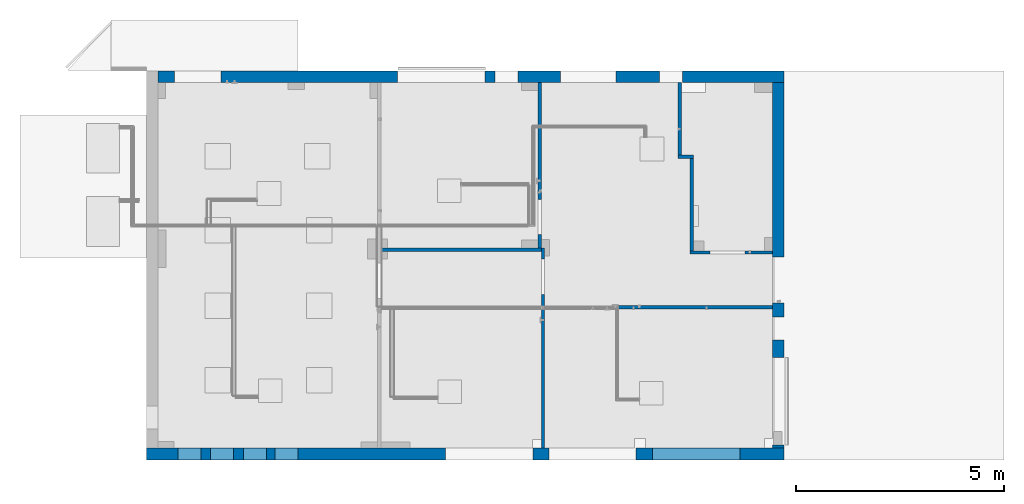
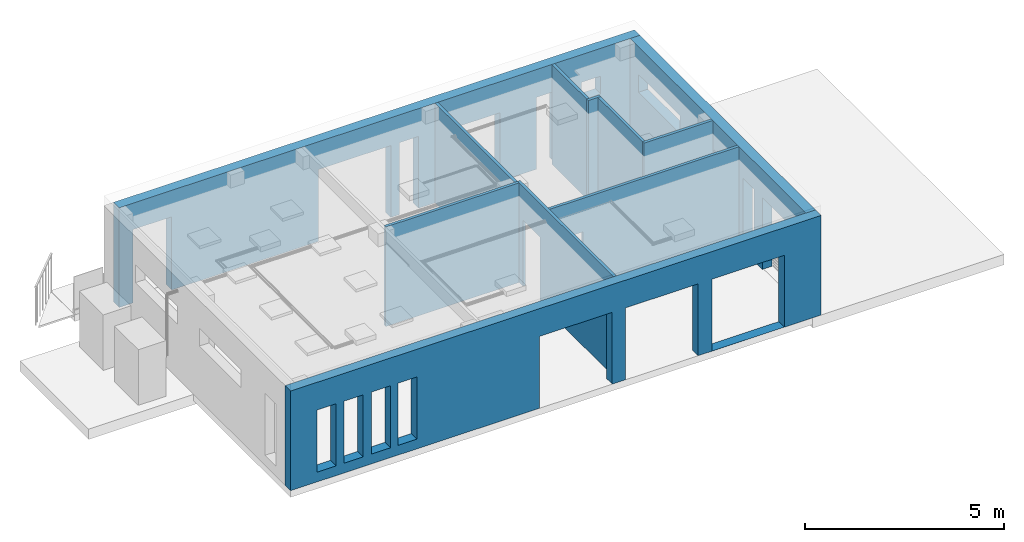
# One storey, part 2 of 22: 11 walls, 21 openings.
"""IFC2X3 building model written with IfcOpenShell, lengths in millimetres."""

import ifcopenshell
import ifcopenshell.guid

model = None  # the IFC model being written
_history = None  # IfcOwnerHistory: only IFC2X3 demands one
_inside = {}  # id of a spatial element -> (the spatial element, [elements in it])
_under = {}  # id of a project, library or spatial element -> (it, [spatial elements below it])
_declared = {}  # id of a project -> (the project, [libraries it declares])
_typed = {}  # id of a type object -> (the type object, [elements of that type])
_made_of = {}  # id of a material, layer set ... -> (it, [elements and type objects made of it])


def new_model(schema):
    """Start an empty IFC model of exactly this schema.

    Asked for "IFC4X3", IfcOpenShell would pick the latest addendum, in which some entities
    have other attributes; the version numbers below select the first issue.
    IFC2X3 requires an IfcOwnerHistory on every rooted entity: one is made here for all.
    """
    global model, _history
    if schema == "IFC4X3":
        model = ifcopenshell.file(schema_version=(4, 3, 0, 0))
    else:
        model = ifcopenshell.file(schema=schema)
    _inside.clear()
    _under.clear()
    _declared.clear()
    _typed.clear()
    _made_of.clear()
    _history = None
    if model.schema == "IFC2X3":
        org = make("IfcOrganization", Name="unknown")
        user = make(
            "IfcPersonAndOrganization",
            ThePerson=make("IfcPerson", FamilyName="unknown"),
            TheOrganization=org,
        )
        app = make(
            "IfcApplication",
            ApplicationDeveloper=org,
            Version="unknown",
            ApplicationFullName="unknown",
            ApplicationIdentifier="unknown",
        )
        _history = make(
            "IfcOwnerHistory",
            OwningUser=user,
            OwningApplication=app,
            ChangeAction="ADDED",
            CreationDate=0,
        )
    return model


def make(cls, **values):
    """One entity of the class cls with the attributes given. An attribute that is None is left unset."""
    return model.create_entity(
        cls, **{name: value for name, value in values.items() if value is not None}
    )


def entity(cls, *values):
    """Any entity or typed value of the class cls, its attributes in the order of the schema. None: left unset."""
    e = model.create_entity(cls)
    for i, value in enumerate(values):
        if value is not None:
            e[i] = value
    return e


def rooted(cls, **values):
    """An entity with a GlobalId (a new one), such as an element, a storey or a relation."""
    return make(cls, GlobalId=ifcopenshell.guid.new(), OwnerHistory=_history, **values)


def si_unit(unit_type, name, prefix=None):
    """IfcSIUnit, for example si_unit("LENGTHUNIT", "METRE", prefix="MILLI")."""
    return make("IfcSIUnit", UnitType=unit_type, Prefix=prefix, Name=name)


def converted_unit(unit_type, name, factor, base, dimensions=None, offset=None):
    """IfcConversionBasedUnit, such as the inch: factor (a typed value) times the base unit."""
    return make(
        "IfcConversionBasedUnit"
        if offset is None
        else "IfcConversionBasedUnitWithOffset",
        ConversionOffset=offset,
        Dimensions=None
        if dimensions is None
        else entity("IfcDimensionalExponents", *dimensions),
        UnitType=unit_type,
        Name=name,
        ConversionFactor=make(
            "IfcMeasureWithUnit", ValueComponent=factor, UnitComponent=base
        ),
    )


def derived_unit(unit_type, elements):
    """IfcDerivedUnit: a product of units, each with its exponent."""
    return make(
        "IfcDerivedUnit",
        Elements=[
            make("IfcDerivedUnitElement", Unit=unit, Exponent=power)
            for unit, power in elements
        ],
        UnitType=unit_type,
    )


def assignment(units):
    """IfcUnitAssignment: the units of a project."""
    return None if units is None else make("IfcUnitAssignment", Units=units)


def point(xyz):
    """IfcCartesianPoint."""
    return None if xyz is None else make("IfcCartesianPoint", Coordinates=xyz)


def direction(xyz):
    """IfcDirection."""
    return None if xyz is None else make("IfcDirection", DirectionRatios=xyz)


def frame(location, z_axis=None, x_axis=None):
    """IfcAxis2Placement3D, a coordinate frame: its origin and axes. An axis left out is left unset."""
    return make(
        "IfcAxis2Placement3D",
        Location=point(location),
        Axis=direction(z_axis),
        RefDirection=direction(x_axis),
    )


def frame_2d(location, x_axis=None):
    """IfcAxis2Placement2D, a coordinate frame in the plane: its origin and x axis."""
    return make(
        "IfcAxis2Placement2D", Location=point(location), RefDirection=direction(x_axis)
    )


def origin():
    """The frame at (0, 0, 0) with its axes left unset."""
    return frame((0.0, 0.0, 0.0))


def origin_2d_with_axis():
    """The frame at (0, 0) in the plane with the x axis (1, 0) written out."""
    return frame_2d((0.0, 0.0), x_axis=(1.0, 0.0))


def place(relative_to, where):
    """IfcLocalPlacement: puts the frame where relative to a parent placement (None: the world)."""
    return make(
        "IfcLocalPlacement", PlacementRelTo=relative_to, RelativePlacement=where
    )


def context(
    kind, dimensions, precision=None, world=None, true_north=None, identifier=None
):
    """IfcGeometricRepresentationContext, for example the 3D "Model" context."""
    return make(
        "IfcGeometricRepresentationContext",
        ContextIdentifier=identifier,
        ContextType=kind,
        CoordinateSpaceDimension=dimensions,
        Precision=precision,
        WorldCoordinateSystem=world,
        TrueNorth=true_north,
    )


def subcontext(parent, identifier, kind, view, scale=None):
    """IfcGeometricRepresentationSubContext, for example "Body" below "Model"."""
    return make(
        "IfcGeometricRepresentationSubContext",
        ContextIdentifier=identifier,
        ContextType=kind,
        ParentContext=parent,
        TargetScale=scale,
        TargetView=view,
    )


def project(units=None, contexts=None):
    """IfcProject with its units and contexts."""
    return rooted(
        "IfcProject",
        Name="project",
        RepresentationContexts=contexts,
        UnitsInContext=assignment(units),
    )


def spatial(cls, under=None, at=None, **own):
    """A site, building, storey or space (cls), placed at a placement, below another one or the project."""
    s = rooted(cls, ObjectPlacement=at, **own)
    if under is not None:
        _under.setdefault(under.id(), (under, []))[1].append(s)
    return s


def profile(cls, at=None, kind="AREA", **sizes):
    """A parametric profile (cls). Its sizes go by their IFC names, for example OverallWidth=200.0."""
    return make(cls, ProfileType=kind, Position=at, **sizes)


def rectangle(**sizes):
    """IfcRectangleProfileDef."""
    return profile("IfcRectangleProfileDef", **sizes)


def extrude(swept, where, along, depth):
    """IfcExtrudedAreaSolid: the profile swept, set in the frame where, extruded along a direction by depth."""
    return make(
        "IfcExtrudedAreaSolid",
        SweptArea=swept,
        Position=where,
        ExtrudedDirection=direction(along),
        Depth=depth,
    )


def shape(context_of_items, identifier, shape_type, items):
    """IfcShapeRepresentation: the items that make up one representation, for example the "Body"."""
    return make(
        "IfcShapeRepresentation",
        ContextOfItems=context_of_items,
        RepresentationIdentifier=identifier,
        RepresentationType=shape_type,
        Items=items,
    )


def material(Name=None, Category=None):
    """IfcMaterial."""
    return make("IfcMaterial", Name=Name, Category=Category)


def layer(
    of_material, thickness, ventilated=None, Name=None, Category=None, Priority=None
):
    """IfcMaterialLayer: one layer of a wall or slab, of a material (None: an air gap)."""
    return make(
        "IfcMaterialLayer",
        Material=of_material,
        LayerThickness=thickness,
        IsVentilated=ventilated,
        Name=Name,
        Category=Category,
        Priority=Priority,
    )


def layer_set(layers, Name=None):
    """IfcMaterialLayerSet."""
    return make("IfcMaterialLayerSet", MaterialLayers=layers, LayerSetName=Name)


def layer_usage(for_layer_set, set_direction, sense, offset, extent=None):
    """IfcMaterialLayerSetUsage: how a layer set lies in its element."""
    return make(
        "IfcMaterialLayerSetUsage",
        ForLayerSet=for_layer_set,
        LayerSetDirection=set_direction,
        DirectionSense=sense,
        OffsetFromReferenceLine=offset,
        ReferenceExtent=extent,
    )


def made_of(thing, what):
    """Note that an element or type object is made of a material, layer set ...; save() writes the relation."""
    if what is not None:
        _made_of.setdefault(what.id(), (what, []))[1].append(thing)
    return thing


def type_object(cls, material=None, **own):
    """A type object (cls), such as IfcWallType, which elements share."""
    return made_of(rooted(cls, **own), material)


def element(
    cls,
    number,
    at=None,
    inside=None,
    cuts=None,
    type_object=None,
    material=None,
    context=None,
    identifier="Body",
    shape_type=None,
    held_by="IfcProductDefinitionShape",
    body=None,
    shapes=None,
    **own,
):
    """One element of the class cls, such as IfcWall. Its Tag is "e" and its number.

    at: its placement. inside: the storey or other place that contains it. cuts: it is an
    opening in that element (IfcRelVoidsElement). A single representation is given by context,
    identifier, shape_type and body (its items); several are given by shapes. held_by: the class
    of the entity that holds the representations. save() writes the other relations.
    """
    e = rooted(cls, Tag="e%d" % number, ObjectPlacement=at, **own)
    if body is not None:
        shapes = [shape(context, identifier, shape_type, body)]
    if shapes is not None:
        e.Representation = make(held_by, Representations=shapes)
    if inside is not None:
        _inside.setdefault(inside.id(), (inside, []))[1].append(e)
    if cuts is not None:
        rooted(
            "IfcRelVoidsElement", RelatingBuildingElement=cuts, RelatedOpeningElement=e
        )
    if type_object is not None:
        _typed.setdefault(type_object.id(), (type_object, []))[1].append(e)
    return made_of(e, material)


def aggregate(whole, parts):
    """IfcRelAggregates: a whole, such as a stair, and the parts it consists of."""
    return rooted("IfcRelAggregates", RelatingObject=whole, RelatedObjects=parts)


def save(model, path):
    """Write the relations noted so far, then the file.

    IfcRelAggregates (storeys below a building ...), IfcRelContainedInSpatialStructure (elements
    in a storey), IfcRelDefinesByType, IfcRelAssociatesMaterial and IfcRelDeclares: one each for
    every whole, place, type object, material and project.
    """
    for whole, parts in _under.values():
        aggregate(whole, parts)
    for where, things in _inside.values():
        rooted(
            "IfcRelContainedInSpatialStructure",
            RelatedElements=things,
            RelatingStructure=where,
        )
    for kind, things in _typed.values():
        rooted("IfcRelDefinesByType", RelatedObjects=things, RelatingType=kind)
    for what, things in _made_of.values():
        rooted("IfcRelAssociatesMaterial", RelatedObjects=things, RelatingMaterial=what)
    for by, libraries in _declared.values():
        rooted("IfcRelDeclares", RelatingContext=by, RelatedDefinitions=libraries)
    model.write(path)


model = new_model("IFC2X3")

# Units and contexts
model_context = context("Model", 3, precision=0.01, world=origin(), true_north=direction((6.123031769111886e-17, 1.0)))
body_context = subcontext(model_context, "Body", "Model", "MODEL_VIEW")
ifc_project = project(units=[si_unit("LENGTHUNIT", "METRE", prefix="MILLI"), si_unit("AREAUNIT", "SQUARE_METRE"), si_unit("VOLUMEUNIT", "CUBIC_METRE"), converted_unit("PLANEANGLEUNIT", "DEGREE", entity("IfcRatioMeasure", 0.017453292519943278), si_unit("PLANEANGLEUNIT", "RADIAN"), dimensions=[0, 0, 0, 0, 0, 0, 0]), si_unit("MASSUNIT", "GRAM", prefix="KILO"), derived_unit("MASSDENSITYUNIT", [(si_unit("MASSUNIT", "GRAM", prefix="KILO"), 1), (si_unit("LENGTHUNIT", "METRE"), -3)]), derived_unit("MOMENTOFINERTIAUNIT", [(si_unit("LENGTHUNIT", "METRE"), 4)]), si_unit("TIMEUNIT", "SECOND"), si_unit("FREQUENCYUNIT", "HERTZ"), si_unit("THERMODYNAMICTEMPERATUREUNIT", "DEGREE_CELSIUS"), derived_unit("THERMALTRANSMITTANCEUNIT", [(si_unit("MASSUNIT", "GRAM", prefix="KILO"), 1), (si_unit("THERMODYNAMICTEMPERATUREUNIT", "KELVIN"), -1), (si_unit("TIMEUNIT", "SECOND"), -3)]), derived_unit("VOLUMETRICFLOWRATEUNIT", [(si_unit("LENGTHUNIT", "METRE"), 3), (si_unit("TIMEUNIT", "SECOND"), -1)]), derived_unit("MASSFLOWRATEUNIT", [(si_unit("MASSUNIT", "GRAM", prefix="KILO"), 1), (si_unit("TIMEUNIT", "SECOND"), -1)]), derived_unit("ROTATIONALFREQUENCYUNIT", [(si_unit("TIMEUNIT", "SECOND"), -1)]), si_unit("ELECTRICCURRENTUNIT", "AMPERE"), si_unit("ELECTRICVOLTAGEUNIT", "VOLT"), si_unit("POWERUNIT", "WATT"), si_unit("FORCEUNIT", "NEWTON", prefix="KILO"), si_unit("ILLUMINANCEUNIT", "LUX"), si_unit("LUMINOUSFLUXUNIT", "LUMEN"), si_unit("LUMINOUSINTENSITYUNIT", "CANDELA"), derived_unit("USERDEFINED", [(si_unit("MASSUNIT", "GRAM", prefix="KILO"), -1), (si_unit("LENGTHUNIT", "METRE"), -2), (si_unit("TIMEUNIT", "SECOND"), 3), (si_unit("LUMINOUSFLUXUNIT", "LUMEN"), 1)]), derived_unit("SOUNDPOWERUNIT", [(si_unit("MASSUNIT", "GRAM", prefix="KILO"), 1), (si_unit("LENGTHUNIT", "METRE"), 2), (si_unit("TIMEUNIT", "SECOND"), -3)]), derived_unit("SOUNDPRESSUREUNIT", [(si_unit("MASSUNIT", "GRAM", prefix="KILO"), 1), (si_unit("LENGTHUNIT", "METRE"), -1), (si_unit("TIMEUNIT", "SECOND"), -2)]), derived_unit("LINEARVELOCITYUNIT", [(si_unit("LENGTHUNIT", "METRE"), 1), (si_unit("TIMEUNIT", "SECOND"), -1)]), si_unit("PRESSUREUNIT", "PASCAL"), derived_unit("USERDEFINED", [(si_unit("LENGTHUNIT", "METRE"), -2), (si_unit("MASSUNIT", "GRAM", prefix="KILO"), 1), (si_unit("TIMEUNIT", "SECOND"), -2)]), derived_unit("LINEARFORCEUNIT", [(si_unit("MASSUNIT", "GRAM", prefix="KILO"), 1), (si_unit("LENGTHUNIT", "METRE"), 1), (si_unit("TIMEUNIT", "SECOND"), -2), (si_unit("LENGTHUNIT", "METRE"), -1)]), derived_unit("PLANARFORCEUNIT", [(si_unit("MASSUNIT", "GRAM", prefix="KILO"), 1), (si_unit("LENGTHUNIT", "METRE"), 1), (si_unit("TIMEUNIT", "SECOND"), -2), (si_unit("LENGTHUNIT", "METRE"), -2)])], contexts=[model_context])

# Site, building, storey
site_placement = place(None, origin())
site = spatial("IfcSite", under=ifc_project, at=site_placement, Name="Default", CompositionType="ELEMENT")
building_placement = place(site_placement, origin())
building = spatial("IfcBuilding", under=site, at=building_placement, CompositionType="ELEMENT")
storey_placement = place(building_placement, frame((0.0, 0.0, 3300.0)))
storey = spatial("IfcBuildingStorey", under=building, at=storey_placement, Name="Level 2", CompositionType="ELEMENT", Elevation=3299.99999999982)

# Wall, openings
ifc_material_1 = material(Name="Finishing Coating")
ifc_layer_1 = layer(ifc_material_1, 10.0)
ifc_layer_2 = layer(ifc_material_1, 10.0)
ifc_material_2 = material(Name="FIBRAN GEO BP Etics")
ifc_layer_3 = layer(ifc_material_2, 160.0)
ifc_material_3 = material(Name="Lightweight Perlite Concrete")
ifc_layer_4 = layer(ifc_material_3, 90.0)
ifc_layer_5 = layer(ifc_material_1, 10.0)
ifc_layer_set_1 = layer_set([ifc_layer_1, ifc_layer_2, ifc_layer_3, ifc_layer_4, ifc_layer_5], Name="Basic Wall:Basic Wall:Basic Wall:My exterior wall 280mm")
ifc_layer_usage_1 = layer_usage(ifc_layer_set_1, "AXIS2", "NEGATIVE", 140.0)
wall_type_1 = type_object("IfcWallType", Name="Basic Wall:Basic Wall:Basic Wall:My exterior wall 280mm", PredefinedType="STANDARD", material=ifc_layer_set_1)
wall_1_placement = place(storey_placement, frame((-9145.33652342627, 5151.16151326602, 0.0)))
wall_1 = element("IfcWallStandardCase", 1, at=wall_1_placement, inside=storey, type_object=wall_type_1, material=ifc_layer_usage_1, Name="Basic Wall:My exterior wall 280mm", ObjectType="Basic Wall:My exterior wall 280mm", context=body_context, shape_type="SweptSolid", body=[
    extrude(rectangle(XDim=15078.705903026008, YDim=280.0000000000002, at=frame_2d((7539.352951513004, -5.400124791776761e-13), x_axis=(1.0, 0.0))), origin(), (0.0, 0.0, 1.0), 3050.000000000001),
])
opening_1_placement = place(wall_1_placement, origin())
element("IfcOpeningElement", 2, at=opening_1_placement, cuts=wall_1, Name="Basic Wall:My exterior wall 280mm", ObjectType="Opening", context=body_context, shape_type="SweptSolid", body=[
    extrude(rectangle(XDim=2100.000000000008, YDim=1340.00356586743, at=frame_2d((2.2737367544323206e-13, 0.0), x_axis=(1.0, 0.0))), frame((10360.928881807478, -140.0, 1050.0), z_axis=(0.0, 1.0, 0.0), x_axis=(0.0, 0.0, -1.0)), (0.0, 0.0, 1.0), 279.99999999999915),
])
opening_2_placement = place(wall_1_placement, origin())
element("IfcOpeningElement", 3, at=opening_2_placement, cuts=wall_1, Name="Basic Wall:My exterior wall 280mm", ObjectType="Opening", context=body_context, shape_type="SweptSolid", body=[
    extrude(rectangle(XDim=2200.0000000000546, YDim=550.0000000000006, at=frame_2d((3.410605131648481e-13, 0.0), x_axis=(1.0, 0.0))), frame((8395.83558297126, -140.0, 1100.0), z_axis=(0.0, 1.0, 0.0), x_axis=(0.0, 0.0, -1.0)), (0.0, 0.0, 1.0), 279.99999999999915),
])
opening_3_placement = place(wall_1_placement, origin())
element("IfcOpeningElement", 4, at=opening_3_placement, cuts=wall_1, Name="Basic Wall:My exterior wall 280mm", ObjectType="Opening", context=body_context, shape_type="SweptSolid", body=[
    extrude(rectangle(XDim=2200.0000000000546, YDim=549.9999999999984, at=frame_2d((3.410605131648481e-13, 0.0), x_axis=(1.0, 0.0))), frame((12353.9932975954, -140.0, 1100.0), z_axis=(0.0, 1.0, 0.0), x_axis=(0.0, 0.0, -1.0)), (0.0, 0.0, 1.0), 279.99999999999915),
])
opening_4_placement = place(wall_1_placement, origin())
element("IfcOpeningElement", 5, at=opening_4_placement, cuts=wall_1, Name="Basic Wall:My exterior wall 280mm", ObjectType="Opening", context=body_context, shape_type="SweptSolid", body=[
    extrude(rectangle(XDim=2200.0000000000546, YDim=2099.999999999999, at=frame_2d((3.410605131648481e-13, 0.0), x_axis=(1.0, 0.0))), frame((6820.83558297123, -140.0, 1100.0), z_axis=(0.0, 1.0, 0.0), x_axis=(0.0, 0.0, -1.0)), (0.0, 0.0, 1.0), 279.99999999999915),
])
opening_5_placement = place(wall_1_placement, origin())
element("IfcOpeningElement", 6, at=opening_5_placement, cuts=wall_1, Name="Basic Wall:My exterior wall 280mm", ObjectType="Opening", context=body_context, shape_type="SweptSolid", body=[
    extrude(rectangle(XDim=2241.6000000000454, YDim=1121.5999999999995, at=frame_2d((2.2737367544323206e-13, -5.684341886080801e-13), x_axis=(1.0, 0.0))), frame((960.8000000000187, -140.0, 1120.7999999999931), z_axis=(0.0, 1.0, 0.0), x_axis=(0.0, 0.0, -1.0)), (0.0, 0.0, 1.0), 279.99999999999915),
])
opening_6_placement = place(wall_1_placement, origin())
element("IfcOpeningElement", 7, at=opening_6_placement, cuts=wall_1, Name="Basic Wall:My exterior wall 280mm", ObjectType="Opening", context=body_context, shape_type="SweptSolid", body=[
    extrude(rectangle(XDim=550.0000000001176, YDim=550.0000000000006, at=origin_2d_with_axis()), frame((13668.9932975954, -140.0, 1925.0), z_axis=(0.0, 1.0, 0.0), x_axis=(0.0, 0.0, -1.0)), (0.0, 0.0, 1.0), 279.99999999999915),
])

ifc_layer_usage_2 = layer_usage(ifc_layer_set_1, "AXIS2", "NEGATIVE", 140.0)
wall_2_placement = place(storey_placement, frame((5933.36937959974, -3935.83848673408, 0.0), z_axis=(0.0, 0.0, 1.0), x_axis=(-1.0, 0.0, 0.0)))
wall_2 = element("IfcWallStandardCase", 8, at=wall_2_placement, inside=storey, type_object=wall_type_1, material=ifc_layer_usage_2, Name="Basic Wall:My exterior wall 280mm", ObjectType="Basic Wall:My exterior wall 280mm", context=body_context, shape_type="SweptSolid", body=[
    extrude(rectangle(XDim=15358.70590302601, YDim=280.0000000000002, at=frame_2d((7679.352951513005, 0.0), x_axis=(1.0, 0.0))), origin(), (0.0, 0.0, 1.0), 3050.000000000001),
])
opening_7_placement = place(wall_2_placement, origin())
element("IfcOpeningElement", 9, at=opening_7_placement, cuts=wall_2, Name="Basic Wall:My exterior wall 280mm", ObjectType="Opening", context=body_context, shape_type="SweptSolid", body=[
    extrude(rectangle(XDim=2200.0000000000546, YDim=2100.0, at=frame_2d((3.410605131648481e-13, 0.0), x_axis=(1.0, 0.0))), frame((7097.75772857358, -140.0, 1100.0), z_axis=(0.0, 1.0, 0.0), x_axis=(0.0, 0.0, -1.0)), (0.0, 0.0, 1.0), 280.0000000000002),
])
opening_8_placement = place(wall_2_placement, origin())
element("IfcOpeningElement", 10, at=opening_8_placement, cuts=wall_2, Name="Basic Wall:My exterior wall 280mm", ObjectType="Opening", context=body_context, shape_type="SweptSolid", body=[
    extrude(rectangle(XDim=2200.0000000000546, YDim=2099.999999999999, at=frame_2d((3.410605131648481e-13, 0.0), x_axis=(1.0, 0.0))), frame((4615.757728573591, -140.0, 1100.0), z_axis=(0.0, 1.0, 0.0), x_axis=(0.0, 0.0, -1.0)), (0.0, 0.0, 1.0), 280.0000000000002),
])
opening_9_placement = place(wall_2_placement, origin())
element("IfcOpeningElement", 11, at=opening_9_placement, cuts=wall_2, Name="Basic Wall:My exterior wall 280mm", ObjectType="Opening", context=body_context, shape_type="SweptSolid", body=[
    extrude(rectangle(XDim=2200.0000000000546, YDim=2099.9999999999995, at=frame_2d((3.410605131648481e-13, 2.2737367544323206e-13), x_axis=(1.0, 0.0))), frame((2115.7577285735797, -140.0, 1102.4887035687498), z_axis=(0.0, 1.0, 0.0), x_axis=(0.0, 0.0, -1.0)), (0.0, 0.0, 1.0), 280.0000000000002),
])
opening_10_placement = place(wall_2_placement, origin())
element("IfcOpeningElement", 12, at=opening_10_placement, cuts=wall_2, Name="Basic Wall:My exterior wall 280mm", ObjectType="Opening", context=body_context, shape_type="SweptSolid", body=[
    extrude(rectangle(XDim=1900.0000000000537, YDim=550.0000000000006, at=frame_2d((2.8421709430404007e-13, 0.0), x_axis=(1.0, 0.0))), frame((14321.477999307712, -140.0, 1250.0), z_axis=(0.0, 1.0, 0.0), x_axis=(0.0, 0.0, -1.0)), (0.0, 0.0, 1.0), 280.0000000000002),
])
opening_11_placement = place(wall_2_placement, origin())
element("IfcOpeningElement", 13, at=opening_11_placement, cuts=wall_2, Name="Basic Wall:My exterior wall 280mm", ObjectType="Opening", context=body_context, shape_type="SweptSolid", body=[
    extrude(rectangle(XDim=1900.0000000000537, YDim=549.9999999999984, at=frame_2d((2.8421709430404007e-13, 0.0), x_axis=(1.0, 0.0))), frame((13531.477999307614, -140.0, 1250.0), z_axis=(0.0, 1.0, 0.0), x_axis=(0.0, 0.0, -1.0)), (0.0, 0.0, 1.0), 280.0000000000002),
])
opening_12_placement = place(wall_2_placement, origin())
element("IfcOpeningElement", 14, at=opening_12_placement, cuts=wall_2, Name="Basic Wall:My exterior wall 280mm", ObjectType="Opening", context=body_context, shape_type="SweptSolid", body=[
    extrude(rectangle(XDim=1900.0000000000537, YDim=549.9999999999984, at=frame_2d((2.8421709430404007e-13, 1.0800249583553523e-12), x_axis=(1.0, 0.0))), frame((12741.477999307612, -140.0, 1250.0), z_axis=(0.0, 1.0, 0.0), x_axis=(0.0, 0.0, -1.0)), (0.0, 0.0, 1.0), 280.0000000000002),
])
opening_13_placement = place(wall_2_placement, origin())
element("IfcOpeningElement", 15, at=opening_13_placement, cuts=wall_2, Name="Basic Wall:My exterior wall 280mm", ObjectType="Opening", context=body_context, shape_type="SweptSolid", body=[
    extrude(rectangle(XDim=1900.0000000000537, YDim=549.9999999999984, at=frame_2d((2.8421709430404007e-13, 0.0), x_axis=(1.0, 0.0))), frame((11981.47799930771, -140.0, 1250.0), z_axis=(0.0, 1.0, 0.0), x_axis=(0.0, 0.0, -1.0)), (0.0, 0.0, 1.0), 280.0000000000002),
])

ifc_layer_usage_3 = layer_usage(ifc_layer_set_1, "AXIS2", "NEGATIVE", 140.0)
wall_3_placement = place(storey_placement, frame((5793.369379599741, 5011.161513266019, 0.0), z_axis=(0.0, 0.0, 1.0), x_axis=(0.0, -1.0, 0.0)))
wall_3 = element("IfcWallStandardCase", 16, at=wall_3_placement, inside=storey, type_object=wall_type_1, material=ifc_layer_usage_3, Name="Basic Wall:My exterior wall 280mm", ObjectType="Basic Wall:My exterior wall 280mm", context=body_context, shape_type="SweptSolid", body=[
    extrude(rectangle(XDim=8807.000000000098, YDim=280.0000000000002, at=frame_2d((4403.500000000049, -5.400124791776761e-13), x_axis=(1.0, 0.0))), origin(), (0.0, 0.0, 1.0), 3050.000000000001),
])
opening_14_placement = place(wall_3_placement, origin())
element("IfcOpeningElement", 17, at=opening_14_placement, cuts=wall_3, Name="Basic Wall:My exterior wall 280mm", ObjectType="Opening", context=body_context, shape_type="SweptSolid", body=[
    extrude(rectangle(XDim=2199.9999999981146, YDim=1099.9999999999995, at=frame_2d((3.410605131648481e-13, 0.0), x_axis=(1.0, 0.0))), frame((4756.60096591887, -140.0, 1100.0), z_axis=(0.0, 1.0, 0.0), x_axis=(0.0, 0.0, -1.0)), (0.0, 0.0, 1.0), 279.99999999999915),
])
opening_15_placement = place(wall_3_placement, origin())
element("IfcOpeningElement", 18, at=opening_15_placement, cuts=wall_3, Name="Basic Wall:My exterior wall 280mm", ObjectType="Opening", context=body_context, shape_type="SweptSolid", body=[
    extrude(rectangle(XDim=2200.0000000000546, YDim=550.0000000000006, at=frame_2d((3.410605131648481e-13, 0.0), x_axis=(1.0, 0.0))), frame((5923.58837407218, -140.0, 1100.0), z_axis=(0.0, 1.0, 0.0), x_axis=(0.0, 0.0, -1.0)), (0.0, 0.0, 1.0), 279.99999999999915),
])
opening_16_placement = place(wall_3_placement, origin())
element("IfcOpeningElement", 19, at=opening_16_placement, cuts=wall_3, Name="Basic Wall:My exterior wall 280mm", ObjectType="Opening", context=body_context, shape_type="SweptSolid", body=[
    extrude(rectangle(XDim=2200.0000000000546, YDim=2100.0000000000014, at=frame_2d((3.410605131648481e-13, 0.0), x_axis=(1.0, 0.0))), frame((7677.0, -140.0, 1100.0), z_axis=(0.0, 1.0, 0.0), x_axis=(0.0, 0.0, -1.0)), (0.0, 0.0, 1.0), 279.99999999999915),
])
opening_17_placement = place(wall_3_placement, origin())
element("IfcOpeningElement", 20, at=opening_17_placement, cuts=wall_3, Name="Basic Wall:My exterior wall 280mm", ObjectType="Opening", context=body_context, shape_type="SweptSolid", body=[
    extrude(rectangle(XDim=550.0000000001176, YDim=2100.0, at=origin_2d_with_axis()), frame((1457.1241435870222, -140.0, 1925.0), z_axis=(0.0, 1.0, 0.0), x_axis=(0.0, 0.0, -1.0)), (0.0, 0.0, 1.0), 279.99999999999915),
])

# Wall, opening
ifc_material_4 = material(Name="Steel, Paint Finish, Ivory, Matte")
ifc_layer_6 = layer(ifc_material_4, 1.0)
ifc_material_5 = material(Name="FIBRAN gyps SUPER")
ifc_layer_7 = layer(ifc_material_5, 15.0)
ifc_material_6 = material(Name="FIBRAN GEO B-570")
ifc_layer_8 = layer(ifc_material_6, 50.0)
ifc_layer_9 = layer(ifc_material_5, 15.0)
ifc_layer_10 = layer(ifc_material_4, 1.0)
ifc_layer_set_2 = layer_set([ifc_layer_6, ifc_layer_7, ifc_layer_8, ifc_layer_9, ifc_layer_10], Name="Basic Wall:Basic Wall:Basic Wall:My interior wall 80mm")
ifc_layer_usage_4 = layer_usage(ifc_layer_set_2, "AXIS2", "NEGATIVE", 40.99999999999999)
wall_type_2 = type_object("IfcWallType", Name="Basic Wall:Basic Wall:Basic Wall:My interior wall 80mm", PredefinedType="STANDARD", material=ifc_layer_set_2)
wall_4_placement = place(storey_placement, frame((3663.5561197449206, 914.768132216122, 0.0)))
wall_4 = element("IfcWallStandardCase", 21, at=wall_4_placement, inside=storey, type_object=wall_type_2, material=ifc_layer_usage_4, Name="Basic Wall:My interior wall 80mm", ObjectType="Basic Wall:My interior wall 80mm", context=body_context, shape_type="SweptSolid", body=[
    extrude(rectangle(XDim=1989.813259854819, YDim=82.00000000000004, at=frame_2d((994.9066299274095, 0.0), x_axis=(1.0, 0.0))), origin(), (0.0, 0.0, 1.0), 3050.000000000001),
])
opening_18_placement = place(wall_4_placement, origin())
element("IfcOpeningElement", 22, at=opening_18_placement, cuts=wall_4, Name="Basic Wall:My interior wall 80mm", ObjectType="Opening", context=body_context, shape_type="SweptSolid", body=[
    extrude(rectangle(XDim=2024.9999999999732, YDim=850.0000000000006, at=frame_2d((2.8421709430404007e-13, 0.0), x_axis=(1.0, 0.0))), frame((907.0, -41.0, 1012.4999999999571), z_axis=(0.0, 1.0, 0.0), x_axis=(0.0, 0.0, -1.0)), (0.0, 0.0, 1.0), 82.00000000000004),
])

ifc_layer_usage_5 = layer_usage(ifc_layer_set_2, "AXIS2", "NEGATIVE", 40.99999999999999)
wall_5_placement = place(storey_placement, frame((5653.36937959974, -405.647037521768, 0.0), z_axis=(0.0, 0.0, 1.0), x_axis=(-1.0, 0.0, 0.0)))
wall_5 = element("IfcWallStandardCase", 23, at=wall_5_placement, inside=storey, type_object=wall_type_2, material=ifc_layer_usage_5, Name="Basic Wall:My interior wall 80mm", ObjectType="Basic Wall:My interior wall 80mm", context=body_context, shape_type="SweptSolid", body=[
    extrude(rectangle(XDim=5485.757728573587, YDim=81.99999999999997, at=frame_2d((2742.8788642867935, 3.552713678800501e-14), x_axis=(1.0, 0.0))), origin(), (0.0, 0.0, 1.0), 3050.000000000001),
])
opening_19_placement = place(wall_5_placement, origin())
element("IfcOpeningElement", 24, at=opening_19_placement, cuts=wall_5, Name="Basic Wall:My interior wall 80mm", ObjectType="Opening", context=body_context, shape_type="SweptSolid", body=[
    extrude(rectangle(XDim=2024.9999999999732, YDim=849.9999999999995, at=frame_2d((2.8421709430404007e-13, 0.0), x_axis=(1.0, 0.0))), frame((4942.78536380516, -41.0, 1012.4999999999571), z_axis=(0.0, 1.0, 0.0), x_axis=(0.0, 0.0, -1.0)), (0.0, 0.0, 1.0), 82.00000000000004),
])

ifc_layer_usage_6 = layer_usage(ifc_layer_set_2, "AXIS2", "NEGATIVE", 40.99999999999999)
wall_6_placement = place(storey_placement, frame((126.611651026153, -3795.83848673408, 0.0), z_axis=(0.0, 0.0, 1.0), x_axis=(0.0, 1.0, 0.0)))
wall_6 = element("IfcWallStandardCase", 25, at=wall_6_placement, inside=storey, type_object=wall_type_2, material=ifc_layer_usage_6, Name="Basic Wall:My interior wall 80mm", ObjectType="Basic Wall:My interior wall 80mm", context=body_context, shape_type="SweptSolid", body=[
    extrude(rectangle(XDim=4818.387318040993, YDim=82.0, at=frame_2d((2409.1936590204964, 0.0), x_axis=(1.0, 0.0))), origin(), (0.0, 0.0, 1.0), 3050.000000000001),
])
opening_20_placement = place(wall_6_placement, origin())
element("IfcOpeningElement", 26, at=opening_20_placement, cuts=wall_6, Name="Basic Wall:My interior wall 80mm", ObjectType="Opening", context=body_context, shape_type="SweptSolid", body=[
    extrude(rectangle(XDim=2024.9999999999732, YDim=849.9999999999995, at=frame_2d((2.8421709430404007e-13, 0.0), x_axis=(1.0, 0.0))), frame((4124.78938362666, -41.0, 1012.4999999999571), z_axis=(0.0, 1.0, 0.0), x_axis=(0.0, 0.0, -1.0)), (0.0, 0.0, 1.0), 82.0),
])

ifc_layer_usage_7 = layer_usage(ifc_layer_set_2, "AXIS2", "NEGATIVE", 40.99999999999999)
wall_7_placement = place(storey_placement, frame((44.6116510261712, 5011.161513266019, 0.0), z_axis=(0.0, 0.0, 1.0), x_axis=(0.0, -1.0, 0.0)))
wall_7 = element("IfcWallStandardCase", 27, at=wall_7_placement, inside=storey, type_object=wall_type_2, material=ifc_layer_usage_7, Name="Basic Wall:My interior wall 80mm", ObjectType="Basic Wall:My interior wall 80mm", context=body_context, shape_type="SweptSolid", body=[
    extrude(rectangle(XDim=3988.6126819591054, YDim=81.99999999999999, at=frame_2d((1994.3063409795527, 7.105427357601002e-15), x_axis=(1.0, 0.0))), origin(), (0.0, 0.0, 1.0), 3050.000000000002),
])
opening_21_placement = place(wall_7_placement, origin())
element("IfcOpeningElement", 28, at=opening_21_placement, cuts=wall_7, Name="Basic Wall:My interior wall 80mm", ObjectType="Opening", context=body_context, shape_type="SweptSolid", body=[
    extrude(rectangle(XDim=2024.9999999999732, YDim=850.0, at=frame_2d((2.8421709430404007e-13, 2.5579538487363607e-13), x_axis=(1.0, 0.0))), frame((3243.612681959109, -41.0, 1012.4999999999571), z_axis=(0.0, 1.0, 0.0), x_axis=(0.0, 0.0, -1.0)), (0.0, 0.0, 1.0), 82.0),
])

# Walls
ifc_layer_usage_8 = layer_usage(ifc_layer_set_2, "AXIS2", "NEGATIVE", 40.99999999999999)
wall_8_placement = place(storey_placement, frame((3424.4577041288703, 5011.161513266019, 0.0), z_axis=(0.0, 0.0, 1.0), x_axis=(0.0, -1.0, 0.0)))
element("IfcWallStandardCase", 29, at=wall_8_placement, inside=storey, type_object=wall_type_2, material=ifc_layer_usage_8, Name="Basic Wall:My interior wall 80mm", ObjectType="Basic Wall:My interior wall 80mm", context=body_context, shape_type="SweptSolid", body=[
    extrude(rectangle(XDim=1744.9840849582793, YDim=81.99999999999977, at=frame_2d((872.4920424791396, 0.0), x_axis=(-1.0, 0.0))), origin(), (0.0, 0.0, 1.0), 3050.000000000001),
])
ifc_layer_usage_9 = layer_usage(ifc_layer_set_2, "AXIS2", "NEGATIVE", 40.99999999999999)
wall_9_placement = place(storey_placement, frame((3383.4577041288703, 3225.17742830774, 0.0)))
element("IfcWallStandardCase", 30, at=wall_9_placement, inside=storey, type_object=wall_type_2, material=ifc_layer_usage_9, Name="Basic Wall:My interior wall 80mm", ObjectType="Basic Wall:My interior wall 80mm", context=body_context, shape_type="SweptSolid", body=[
    extrude(rectangle(XDim=362.09841561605, YDim=81.99999999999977, at=frame_2d((181.049207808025, 0.0), x_axis=(-1.0, 0.0))), origin(), (0.0, 0.0, 1.0), 3050.000000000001),
])
ifc_layer_usage_10 = layer_usage(ifc_layer_set_2, "AXIS2", "NEGATIVE", 40.99999999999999)
wall_10_placement = place(storey_placement, frame((3704.5561197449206, 3184.17742830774, 0.0), z_axis=(0.0, 0.0, 1.0), x_axis=(0.0, -1.0, 0.0)))
element("IfcWallStandardCase", 31, at=wall_10_placement, inside=storey, type_object=wall_type_2, material=ifc_layer_usage_10, Name="Basic Wall:My interior wall 80mm", ObjectType="Basic Wall:My interior wall 80mm", context=body_context, shape_type="SweptSolid", body=[
    extrude(rectangle(XDim=2228.4092960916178, YDim=81.99999999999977, at=frame_2d((1114.2046480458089, 0.0), x_axis=(-1.0, 0.0))), origin(), (0.0, 0.0, 1.0), 3050.000000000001),
])
ifc_layer_usage_11 = layer_usage(ifc_layer_set_2, "AXIS2", "NEGATIVE", 40.99999999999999)
wall_11_placement = place(storey_placement, frame((85.61165102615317, 981.5488313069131, 0.0), z_axis=(0.0, 0.0, 1.0), x_axis=(-1.0, 0.0, 0.0)))
element("IfcWallStandardCase", 32, at=wall_11_placement, inside=storey, type_object=wall_type_2, material=ifc_layer_usage_11, Name="Basic Wall:My interior wall 80mm", ObjectType="Basic Wall:My interior wall 80mm", context=body_context, shape_type="SweptSolid", body=[
    extrude(rectangle(XDim=3860.967429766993, YDim=82.00000000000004, at=frame_2d((1930.4837148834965, 0.0), x_axis=(-1.0, 0.0))), origin(), (0.0, 0.0, 1.0), 3050.000000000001),
])

save(model, "model.ifc")
